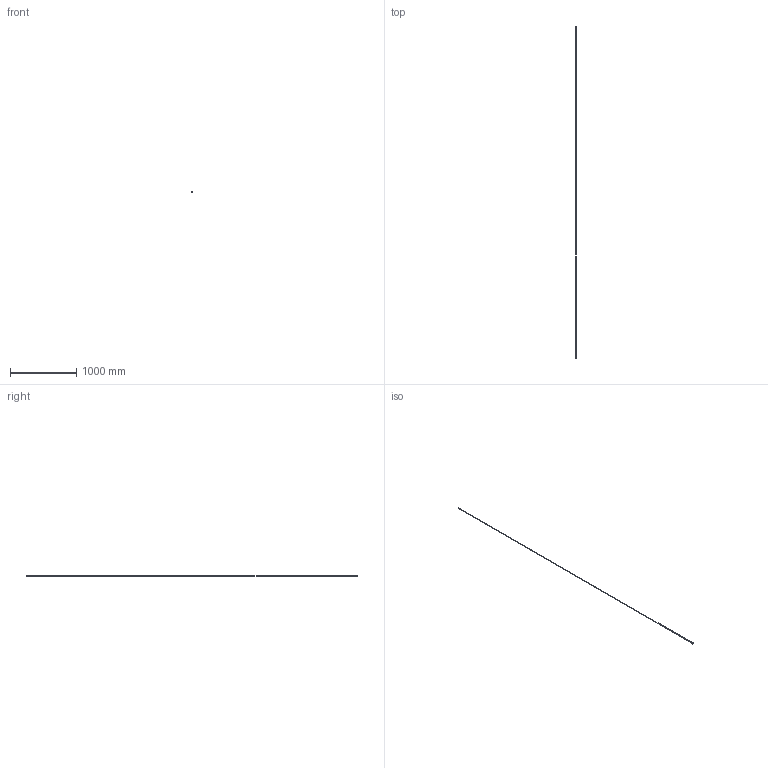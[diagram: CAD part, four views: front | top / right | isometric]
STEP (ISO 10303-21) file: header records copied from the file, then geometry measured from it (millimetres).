
FILE_DESCRIPTION(/* description */ ('Unknown'),/* implementation_level */ '2;1');
FILE_NAME(/* name */ 'SILICONE_C 12x5mm',/* time_stamp */ '2023-02-07T09:16:06+01:00',/* author */ ('Unknown'),/* organization */ ('Unknown'),/* preprocessor_version */ 'ST-DEVELOPER v18.1',/* originating_system */ 'Solid Edge',/* authorisation */ 'Unknown');
FILE_SCHEMA (('AUTOMOTIVE_DESIGN {1 0 10303 214 3 1 1}'));
Length unit declared in the file: millimetre
Products named in the file (1): Parte1
Bounding box: 14 x 5012 x 7 mm (x, y, z)
Volume: 301152.3 mm3; surface area: 170673.1 mm2
Topology: 1 solids, 1 shells, 18 faces, 39 edges, 26 vertices
Faces by surface type: plane 17, cylinder 1
Full cylindrical faces by diameter (mm): 5 x1
Entity records: 510 total; most frequent: CARTESIAN_POINT 83, DIRECTION 78, ORIENTED_EDGE 76, EDGE_CURVE 38, LINE 36, VECTOR 36, VERTEX_POINT 26, EDGE_LOOP 22
